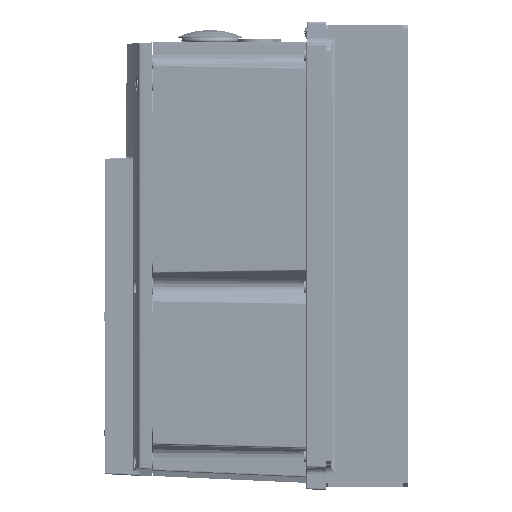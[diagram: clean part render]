
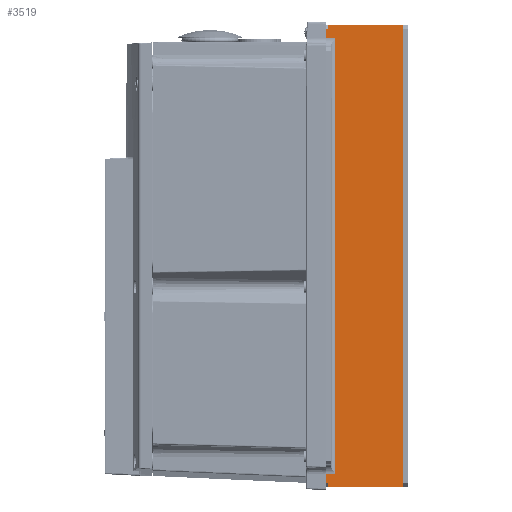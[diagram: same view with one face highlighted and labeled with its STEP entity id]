
A CAD part, left-side view. The second image highlights one B-rep face of the part: STEP entity #3519.
In plain terms, the highlighted planar face has unit normal (-1, 0, 0).
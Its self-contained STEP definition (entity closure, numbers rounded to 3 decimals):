
#3519=ADVANCED_FACE('',(#14004),#14005,.T.);
#14004=FACE_OUTER_BOUND('',#36266,.T.);
#14005=PLANE('',#36267);
#36266=EDGE_LOOP('',(#85382,#85383,#85384,#85385,#85386,#85387,#85388,#85389,#85390,#85391,#85392,#85393));
#36267=AXIS2_PLACEMENT_3D('',#85394,#85395,#85396);
#85382=ORIENTED_EDGE('',*,*,#127383,.T.);
#85383=ORIENTED_EDGE('',*,*,#126626,.F.);
#85384=ORIENTED_EDGE('',*,*,#127384,.T.);
#85385=ORIENTED_EDGE('',*,*,#127385,.F.);
#85386=ORIENTED_EDGE('',*,*,#127282,.T.);
#85387=ORIENTED_EDGE('',*,*,#127351,.F.);
#85388=ORIENTED_EDGE('',*,*,#127338,.F.);
#85389=ORIENTED_EDGE('',*,*,#127386,.F.);
#85390=ORIENTED_EDGE('',*,*,#127387,.F.);
#85391=ORIENTED_EDGE('',*,*,#126634,.F.);
#85392=ORIENTED_EDGE('',*,*,#127388,.T.);
#85393=ORIENTED_EDGE('',*,*,#127389,.T.);
#85394=CARTESIAN_POINT('',(-191.6,0.0,-19.0));
#85395=DIRECTION('',(-1.0,0.0,0.0));
#85396=DIRECTION('',(0.0,0.0,1.0));
#126626=EDGE_CURVE('',#150740,#150742,#150743,.T.);
#126634=EDGE_CURVE('',#150756,#150758,#150759,.T.);
#127282=EDGE_CURVE('',#151766,#151764,#151767,.T.);
#127338=EDGE_CURVE('',#151857,#151859,#151860,.T.);
#127351=EDGE_CURVE('',#151859,#151764,#151881,.T.);
#127383=EDGE_CURVE('',#151926,#150742,#151927,.T.);
#127384=EDGE_CURVE('',#150740,#151928,#151929,.T.);
#127385=EDGE_CURVE('',#151766,#151928,#151930,.T.);
#127386=EDGE_CURVE('',#151931,#151857,#151932,.T.);
#127387=EDGE_CURVE('',#150758,#151931,#151933,.T.);
#127388=EDGE_CURVE('',#150756,#151934,#151935,.T.);
#127389=EDGE_CURVE('',#151934,#151926,#151936,.T.);
#150740=VERTEX_POINT('',#192610);
#150742=VERTEX_POINT('',#192613);
#150743=LINE('',#192614,#192615);
#150756=VERTEX_POINT('',#192633);
#150758=VERTEX_POINT('',#192635);
#150759=LINE('',#192636,#192637);
#151764=VERTEX_POINT('',#193899);
#151766=VERTEX_POINT('',#193902);
#151767=LINE('',#193903,#193904);
#151857=VERTEX_POINT('',#194039);
#151859=VERTEX_POINT('',#194042);
#151860=LINE('',#194043,#194044);
#151881=LINE('',#194075,#194076);
#151926=VERTEX_POINT('',#194146);
#151927=LINE('',#194147,#194148);
#151928=VERTEX_POINT('',#194149);
#151929=LINE('',#194150,#194151);
#151930=LINE('',#194152,#194153);
#151931=VERTEX_POINT('',#194154);
#151932=LINE('',#194155,#194156);
#151933=LINE('',#194157,#194158);
#151934=VERTEX_POINT('',#194159);
#151935=LINE('',#194160,#194161);
#151936=LINE('',#194162,#194163);
#192610=CARTESIAN_POINT('',(-191.6,0.0,-17.0));
#192613=CARTESIAN_POINT('',(-191.6,0.0,-11.0));
#192614=CARTESIAN_POINT('',(-191.6,0.0,-17.0));
#192615=VECTOR('',#233982,6.0);
#192633=CARTESIAN_POINT('',(-191.6,0.0,265.6));
#192635=CARTESIAN_POINT('',(-191.6,0.0,271.6));
#192636=CARTESIAN_POINT('',(-191.6,0.0,265.6));
#192637=VECTOR('',#233994,6.0);
#193899=CARTESIAN_POINT('',(-191.6,-56.0,-19.0));
#193902=CARTESIAN_POINT('',(-191.6,-8.0,-19.0));
#193903=CARTESIAN_POINT('',(-191.6,-8.0,-19.0));
#193904=VECTOR('',#235442,48.0);
#194039=CARTESIAN_POINT('',(-191.6,-8.0,273.6));
#194042=CARTESIAN_POINT('',(-191.6,-56.0,273.6));
#194043=CARTESIAN_POINT('',(-191.6,-8.0,273.6));
#194044=VECTOR('',#235516,48.0);
#194075=CARTESIAN_POINT('',(-191.6,-56.0,273.6));
#194076=VECTOR('',#235533,292.6);
#194146=CARTESIAN_POINT('',(-191.6,-13.0,-11.0));
#194147=CARTESIAN_POINT('',(-191.6,-13.0,-11.0));
#194148=VECTOR('',#235577,13.0);
#194149=CARTESIAN_POINT('',(-191.6,-8.0,-17.0));
#194150=CARTESIAN_POINT('',(-191.6,0.0,-17.0));
#194151=VECTOR('',#235578,8.0);
#194152=CARTESIAN_POINT('',(-191.6,-8.0,-19.0));
#194153=VECTOR('',#235579,2.0);
#194154=CARTESIAN_POINT('',(-191.6,-8.0,271.6));
#194155=CARTESIAN_POINT('',(-191.6,-8.0,271.6));
#194156=VECTOR('',#235580,2.0);
#194157=CARTESIAN_POINT('',(-191.6,0.0,271.6));
#194158=VECTOR('',#235581,8.0);
#194159=CARTESIAN_POINT('',(-191.6,-13.0,265.6));
#194160=CARTESIAN_POINT('',(-191.6,0.0,265.6));
#194161=VECTOR('',#235582,13.0);
#194162=CARTESIAN_POINT('',(-191.6,-13.0,265.6));
#194163=VECTOR('',#235583,276.6);
#233982=DIRECTION('',(0.0,0.0,1.0));
#233994=DIRECTION('',(0.0,0.0,1.0));
#235442=DIRECTION('',(0.0,-1.0,0.0));
#235516=DIRECTION('',(0.0,-1.0,0.0));
#235533=DIRECTION('',(0.0,0.0,-1.0));
#235577=DIRECTION('',(0.0,1.0,0.0));
#235578=DIRECTION('',(0.0,-1.0,0.0));
#235579=DIRECTION('',(0.0,0.0,1.0));
#235580=DIRECTION('',(0.0,0.0,1.0));
#235581=DIRECTION('',(0.0,-1.0,0.0));
#235582=DIRECTION('',(0.0,-1.0,0.0));
#235583=DIRECTION('',(0.0,0.0,-1.0));
